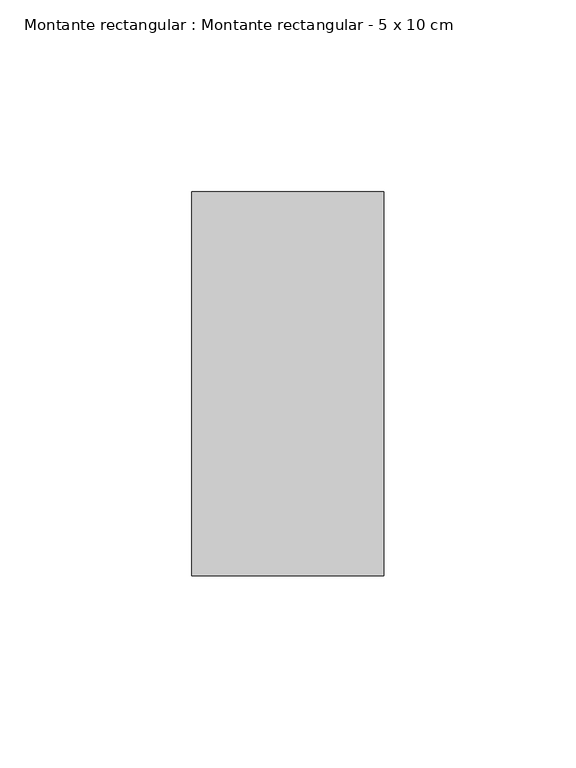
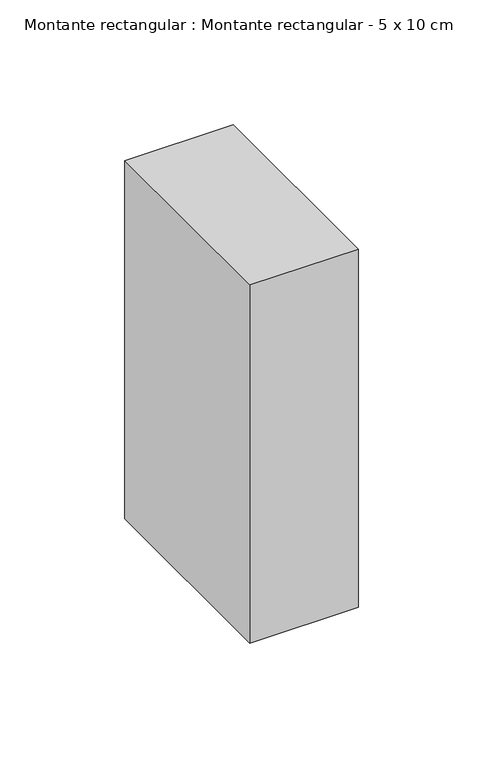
"""IFC4 building model written with IfcOpenShell, lengths in millimetres: member geometry, Montante rectangular : Montante rectangular - 5 x 10 cm."""

import ifcopenshell
import ifcopenshell.guid

model = None  # the IFC model being written
_history = None  # IfcOwnerHistory: only IFC2X3 demands one
_inside = {}  # id of a spatial element -> (the spatial element, [elements in it])
_under = {}  # id of a project, library or spatial element -> (it, [spatial elements below it])
_declared = {}  # id of a project -> (the project, [libraries it declares])
_typed = {}  # id of a type object -> (the type object, [elements of that type])
_made_of = {}  # id of a material, layer set ... -> (it, [elements and type objects made of it])


def new_model(schema):
    """Start an empty IFC model of exactly this schema.

    Asked for "IFC4X3", IfcOpenShell would pick the latest addendum, in which some entities
    have other attributes; the version numbers below select the first issue.
    IFC2X3 requires an IfcOwnerHistory on every rooted entity: one is made here for all.
    """
    global model, _history
    if schema == "IFC4X3":
        model = ifcopenshell.file(schema_version=(4, 3, 0, 0))
    else:
        model = ifcopenshell.file(schema=schema)
    _inside.clear()
    _under.clear()
    _declared.clear()
    _typed.clear()
    _made_of.clear()
    _history = None
    if model.schema == "IFC2X3":
        org = make("IfcOrganization", Name="unknown")
        user = make(
            "IfcPersonAndOrganization",
            ThePerson=make("IfcPerson", FamilyName="unknown"),
            TheOrganization=org,
        )
        app = make(
            "IfcApplication",
            ApplicationDeveloper=org,
            Version="unknown",
            ApplicationFullName="unknown",
            ApplicationIdentifier="unknown",
        )
        _history = make(
            "IfcOwnerHistory",
            OwningUser=user,
            OwningApplication=app,
            ChangeAction="ADDED",
            CreationDate=0,
        )
    return model


def make(cls, **values):
    """One entity of the class cls with the attributes given. An attribute that is None is left unset."""
    return model.create_entity(
        cls, **{name: value for name, value in values.items() if value is not None}
    )


def rooted(cls, **values):
    """An entity with a GlobalId (a new one), such as an element, a storey or a relation."""
    return make(cls, GlobalId=ifcopenshell.guid.new(), OwnerHistory=_history, **values)


def si_unit(unit_type, name, prefix=None):
    """IfcSIUnit, for example si_unit("LENGTHUNIT", "METRE", prefix="MILLI")."""
    return make("IfcSIUnit", UnitType=unit_type, Prefix=prefix, Name=name)


def assignment(units):
    """IfcUnitAssignment: the units of a project."""
    return None if units is None else make("IfcUnitAssignment", Units=units)


def point(xyz):
    """IfcCartesianPoint."""
    return None if xyz is None else make("IfcCartesianPoint", Coordinates=xyz)


def direction(xyz):
    """IfcDirection."""
    return None if xyz is None else make("IfcDirection", DirectionRatios=xyz)


def frame(location, z_axis=None, x_axis=None):
    """IfcAxis2Placement3D, a coordinate frame: its origin and axes. An axis left out is left unset."""
    return make(
        "IfcAxis2Placement3D",
        Location=point(location),
        Axis=direction(z_axis),
        RefDirection=direction(x_axis),
    )


def origin():
    """The frame at (0, 0, 0) with its axes left unset."""
    return frame((0.0, 0.0, 0.0))


def place(relative_to, where):
    """IfcLocalPlacement: puts the frame where relative to a parent placement (None: the world)."""
    return make(
        "IfcLocalPlacement", PlacementRelTo=relative_to, RelativePlacement=where
    )


def context(
    kind, dimensions, precision=None, world=None, true_north=None, identifier=None
):
    """IfcGeometricRepresentationContext, for example the 3D "Model" context."""
    return make(
        "IfcGeometricRepresentationContext",
        ContextIdentifier=identifier,
        ContextType=kind,
        CoordinateSpaceDimension=dimensions,
        Precision=precision,
        WorldCoordinateSystem=world,
        TrueNorth=true_north,
    )


def project(units=None, contexts=None):
    """IfcProject with its units and contexts."""
    return rooted(
        "IfcProject",
        Name="project",
        RepresentationContexts=contexts,
        UnitsInContext=assignment(units),
    )


def spatial(cls, under=None, at=None, **own):
    """A site, building, storey or space (cls), placed at a placement, below another one or the project."""
    s = rooted(cls, ObjectPlacement=at, **own)
    if under is not None:
        _under.setdefault(under.id(), (under, []))[1].append(s)
    return s


def polyline(points):
    """IfcPolyline through the points."""
    return make("IfcPolyline", Points=[point(p) for p in points])


def outline(outer, holes=None, kind="AREA"):
    """IfcArbitraryClosedProfileDef: a profile drawn as a closed curve; with holes, ...WithVoids."""
    if holes is None:
        return make("IfcArbitraryClosedProfileDef", ProfileType=kind, OuterCurve=outer)
    return make(
        "IfcArbitraryProfileDefWithVoids",
        ProfileType=kind,
        OuterCurve=outer,
        InnerCurves=holes,
    )


def extrude(swept, where, along, depth):
    """IfcExtrudedAreaSolid: the profile swept, set in the frame where, extruded along a direction by depth."""
    return make(
        "IfcExtrudedAreaSolid",
        SweptArea=swept,
        Position=where,
        ExtrudedDirection=direction(along),
        Depth=depth,
    )


def shape(context_of_items, identifier, shape_type, items):
    """IfcShapeRepresentation: the items that make up one representation, for example the "Body"."""
    return make(
        "IfcShapeRepresentation",
        ContextOfItems=context_of_items,
        RepresentationIdentifier=identifier,
        RepresentationType=shape_type,
        Items=items,
    )


def source(mapping_origin, context_of_items, identifier, shape_type, items):
    """IfcRepresentationMap: a shape defined once, which mapped items show again and again."""
    return make(
        "IfcRepresentationMap",
        MappingOrigin=mapping_origin,
        MappedRepresentation=shape(context_of_items, identifier, shape_type, items),
    )


def transform(
    local_origin,
    x_axis=None,
    y_axis=None,
    z_axis=None,
    scale=None,
    scale2=None,
    scale3=None,
    uniform=True,
):
    """IfcCartesianTransformationOperator3D, or its non-uniform kind. x_axis, y_axis, z_axis: its Axis1, 2, 3."""
    if uniform:
        return make(
            "IfcCartesianTransformationOperator3D",
            Axis1=direction(x_axis),
            Axis2=direction(y_axis),
            LocalOrigin=point(local_origin),
            Scale=scale,
            Axis3=direction(z_axis),
        )
    return make(
        "IfcCartesianTransformationOperator3DnonUniform",
        Axis1=direction(x_axis),
        Axis2=direction(y_axis),
        LocalOrigin=point(local_origin),
        Scale=scale,
        Axis3=direction(z_axis),
        Scale2=scale2,
        Scale3=scale3,
    )


def mapped(mapping_source, mapping_target):
    """IfcMappedItem: shows the shape of a source again, moved by a transform."""
    return make(
        "IfcMappedItem", MappingSource=mapping_source, MappingTarget=mapping_target
    )


def made_of(thing, what):
    """Note that an element or type object is made of a material, layer set ...; save() writes the relation."""
    if what is not None:
        _made_of.setdefault(what.id(), (what, []))[1].append(thing)
    return thing


def element(
    cls,
    number,
    at=None,
    inside=None,
    cuts=None,
    type_object=None,
    material=None,
    context=None,
    identifier="Body",
    shape_type=None,
    held_by="IfcProductDefinitionShape",
    body=None,
    shapes=None,
    **own,
):
    """One element of the class cls, such as IfcWall. Its Tag is "e" and its number.

    at: its placement. inside: the storey or other place that contains it. cuts: it is an
    opening in that element (IfcRelVoidsElement). A single representation is given by context,
    identifier, shape_type and body (its items); several are given by shapes. held_by: the class
    of the entity that holds the representations. save() writes the other relations.
    """
    e = rooted(cls, Tag="e%d" % number, ObjectPlacement=at, **own)
    if body is not None:
        shapes = [shape(context, identifier, shape_type, body)]
    if shapes is not None:
        e.Representation = make(held_by, Representations=shapes)
    if inside is not None:
        _inside.setdefault(inside.id(), (inside, []))[1].append(e)
    if cuts is not None:
        rooted(
            "IfcRelVoidsElement", RelatingBuildingElement=cuts, RelatedOpeningElement=e
        )
    if type_object is not None:
        _typed.setdefault(type_object.id(), (type_object, []))[1].append(e)
    return made_of(e, material)


def aggregate(whole, parts):
    """IfcRelAggregates: a whole, such as a stair, and the parts it consists of."""
    return rooted("IfcRelAggregates", RelatingObject=whole, RelatedObjects=parts)


def save(model, path):
    """Write the relations noted so far, then the file.

    IfcRelAggregates (storeys below a building ...), IfcRelContainedInSpatialStructure (elements
    in a storey), IfcRelDefinesByType, IfcRelAssociatesMaterial and IfcRelDeclares: one each for
    every whole, place, type object, material and project.
    """
    for whole, parts in _under.values():
        aggregate(whole, parts)
    for where, things in _inside.values():
        rooted(
            "IfcRelContainedInSpatialStructure",
            RelatedElements=things,
            RelatingStructure=where,
        )
    for kind, things in _typed.values():
        rooted("IfcRelDefinesByType", RelatedObjects=things, RelatingType=kind)
    for what, things in _made_of.values():
        rooted("IfcRelAssociatesMaterial", RelatedObjects=things, RelatingMaterial=what)
    for by, libraries in _declared.values():
        rooted("IfcRelDeclares", RelatingContext=by, RelatedDefinitions=libraries)
    model.write(path)


def montante_rectangular_montante_rectangular_5_x_10_cm_a078bce8(model_context):
    return source(origin(), model_context, "Body", "SweptSolid", [
        extrude(outline(polyline([(25.0, 50.0), (25.0, -50.0), (-25.0, -50.0), (-25.0, 50.0), (25.0, 50.0)])), frame((0.0, 0.0, -175.0), z_axis=(0.0, 0.0, 1.0), x_axis=(1.0, 0.0, 0.0)), (0.0, 0.0, 1.0), 175.0),
    ])


if __name__ == "__main__":
    model = new_model("IFC4")
    model_context = context("Model", 3, world=origin())
    ifc_project = project(units=[si_unit("LENGTHUNIT", "METRE", prefix="MILLI")], contexts=[model_context])
    site = spatial("IfcSite", under=ifc_project)
    building = spatial("IfcBuilding", under=site)
    placement = place(None, origin())
    montante_rectangular_montante_rectangular_5_x_10_cm_shape = montante_rectangular_montante_rectangular_5_x_10_cm_a078bce8(model_context)
    element("IfcMember", 1, ObjectType="Montante rectangular : Montante rectangular - 5 x 10 cm", at=placement, inside=building, context=model_context, shape_type="MappedRepresentation", body=[
        mapped(montante_rectangular_montante_rectangular_5_x_10_cm_shape, transform((0.0, 0.0, 0.0), x_axis=(1.0, 0.0, 0.0), y_axis=(0.0, 1.0, 0.0), z_axis=(0.0, 0.0, 1.0))),
    ])
    save(model, "model.ifc")
